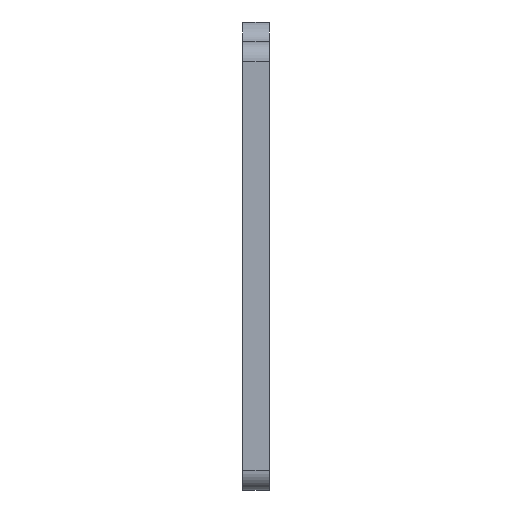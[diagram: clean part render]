
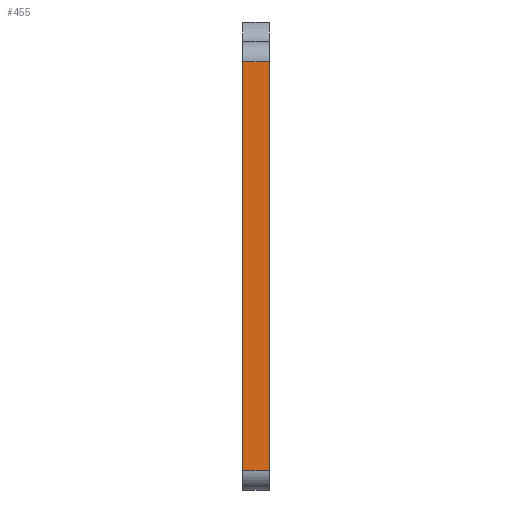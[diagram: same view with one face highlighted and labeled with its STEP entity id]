
A CAD part, left-side view. The second image highlights one B-rep face of the part: STEP entity #455.
In plain terms, the highlighted planar face has unit normal (-1, 0, 0).
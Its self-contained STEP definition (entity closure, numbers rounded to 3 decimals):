
#54 = LINE ( 'NONE', #533, #896 ) ;
#121 = DIRECTION ( 'NONE',  ( 0., 0., -1. ) ) ;
#146 = DIRECTION ( 'NONE',  ( 0., 0., 1. ) ) ;
#152 = CARTESIAN_POINT ( 'NONE',  ( -16.15, 0., -15.4 ) ) ;
#176 = FACE_OUTER_BOUND ( 'NONE', #933, .T. ) ;
#199 = DIRECTION ( 'NONE',  ( 1., 0., 0. ) ) ;
#212 = ORIENTED_EDGE ( 'NONE', *, *, #694, .T. ) ;
#257 = EDGE_CURVE ( 'NONE', #1024, #664, #54, .T. ) ;
#259 = CARTESIAN_POINT ( 'NONE',  ( -16.15, 2., 15.4 ) ) ;
#283 = AXIS2_PLACEMENT_3D ( 'NONE', #936, #199, #121 ) ;
#336 = LINE ( 'NONE', #259, #554 ) ;
#404 = CARTESIAN_POINT ( 'NONE',  ( -16.15, 2., 15.4 ) ) ;
#446 = ORIENTED_EDGE ( 'NONE', *, *, #961, .F. ) ;
#455 = ADVANCED_FACE ( 'NONE', ( #176 ), #502, .F. ) ;
#463 = CARTESIAN_POINT ( 'NONE',  ( -16.15, 0., 15.4 ) ) ;
#502 = PLANE ( 'NONE',  #283 ) ;
#523 = CARTESIAN_POINT ( 'NONE',  ( -16.15, 2., 15.4 ) ) ;
#533 = CARTESIAN_POINT ( 'NONE',  ( -16.15, 2., -15.4 ) ) ;
#535 = EDGE_CURVE ( 'NONE', #830, #918, #770, .T. ) ;
#554 = VECTOR ( 'NONE', #747, 1000. ) ;
#664 = VERTEX_POINT ( 'NONE', #152 ) ;
#667 = CARTESIAN_POINT ( 'NONE',  ( -16.15, 2., -15.4 ) ) ;
#694 = EDGE_CURVE ( 'NONE', #664, #918, #946, .T. ) ;
#747 = DIRECTION ( 'NONE',  ( 0., 0., 1. ) ) ;
#770 = LINE ( 'NONE', #523, #970 ) ;
#772 = ORIENTED_EDGE ( 'NONE', *, *, #257, .T. ) ;
#830 = VERTEX_POINT ( 'NONE', #404 ) ;
#875 = CARTESIAN_POINT ( 'NONE',  ( -16.15, 0., 15.4 ) ) ;
#896 = VECTOR ( 'NONE', #919, 1000. ) ;
#918 = VERTEX_POINT ( 'NONE', #463 ) ;
#919 = DIRECTION ( 'NONE',  ( 0., -1., 0. ) ) ;
#933 = EDGE_LOOP ( 'NONE', ( #212, #1003, #446, #772 ) ) ;
#936 = CARTESIAN_POINT ( 'NONE',  ( -16.15, 2., 15.4 ) ) ;
#944 = VECTOR ( 'NONE', #146, 1000. ) ;
#946 = LINE ( 'NONE', #875, #944 ) ;
#961 = EDGE_CURVE ( 'NONE', #1024, #830, #336, .T. ) ;
#970 = VECTOR ( 'NONE', #1014, 1000. ) ;
#1003 = ORIENTED_EDGE ( 'NONE', *, *, #535, .F. ) ;
#1014 = DIRECTION ( 'NONE',  ( 0., -1., 0. ) ) ;
#1024 = VERTEX_POINT ( 'NONE', #667 ) ;
